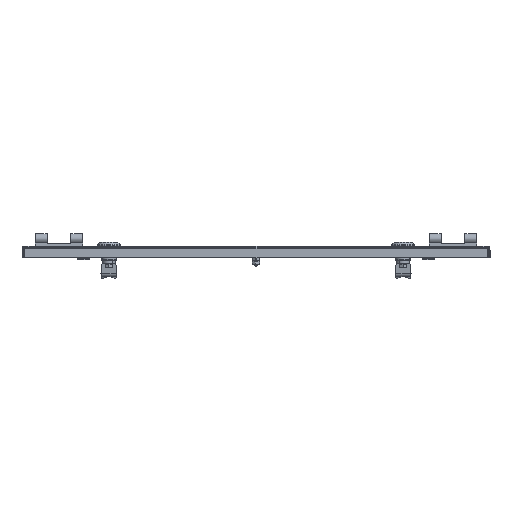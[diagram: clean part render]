
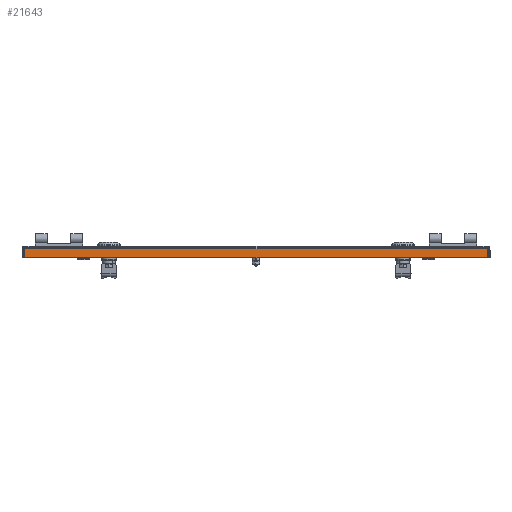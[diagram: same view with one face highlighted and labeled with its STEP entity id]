
A CAD part, left-side view. The second image highlights one B-rep face of the part: STEP entity #21643.
In plain terms, the highlighted planar face has unit normal (-1, 0, 0).
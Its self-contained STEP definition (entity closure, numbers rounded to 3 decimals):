
#524 = AXIS2_PLACEMENT_3D ( 'NONE', #10909, #10914, #10915 ) ;
#3768 = CARTESIAN_POINT ( 'NONE',  ( -392.5, -293.5, -15. ) ) ;
#3837 = CARTESIAN_POINT ( 'NONE',  ( -392.5, -293.5, -3.5 ) ) ;
#3839 = CARTESIAN_POINT ( 'NONE',  ( -392.5, 293.5, -15. ) ) ;
#4026 = CARTESIAN_POINT ( 'NONE',  ( -392.5, 293.5, -3.5 ) ) ;
#5209 = EDGE_LOOP ( 'NONE', ( #19904, #19905, #19906, #19907 ) ) ;
#7426 = FACE_OUTER_BOUND ( 'NONE', #5209, .T. ) ;
#10908 = PLANE ( 'NONE',  #524 ) ;
#10909 = CARTESIAN_POINT ( 'NONE',  ( -392.5, 297., -15. ) ) ;
#10914 = DIRECTION ( 'NONE',  ( -1., 0., 0. ) ) ;
#10915 = DIRECTION ( 'NONE',  ( 0., -1., 0. ) ) ;
#13078 = LINE ( 'NONE', #15482, #13084 ) ;
#13084 = VECTOR ( 'NONE', #15479, 1000. ) ;
#13096 = LINE ( 'NONE', #15506, #13099 ) ;
#13098 = LINE ( 'NONE', #15508, #13101 ) ;
#13099 = VECTOR ( 'NONE', #15507, 1000. ) ;
#13100 = LINE ( 'NONE', #15510, #13103 ) ;
#13101 = VECTOR ( 'NONE', #15509, 1000. ) ;
#13103 = VECTOR ( 'NONE', #15511, 1000. ) ;
#15479 = DIRECTION ( 'NONE',  ( 0., -1., 0. ) ) ;
#15482 = CARTESIAN_POINT ( 'NONE',  ( -392.5, 297., -15. ) ) ;
#15506 = CARTESIAN_POINT ( 'NONE',  ( -392.5, -293.5, -15. ) ) ;
#15507 = DIRECTION ( 'NONE',  ( 0., 0., 1. ) ) ;
#15508 = CARTESIAN_POINT ( 'NONE',  ( -392.5, 297., -3.5 ) ) ;
#15509 = DIRECTION ( 'NONE',  ( 0., 1., 0. ) ) ;
#15510 = CARTESIAN_POINT ( 'NONE',  ( -392.5, 293.5, -15. ) ) ;
#15511 = DIRECTION ( 'NONE',  ( 0., 0., -1. ) ) ;
#19904 = ORIENTED_EDGE ( 'NONE', *, *, #22523, .T. ) ;
#19905 = ORIENTED_EDGE ( 'NONE', *, *, #22532, .T. ) ;
#19906 = ORIENTED_EDGE ( 'NONE', *, *, #22533, .T. ) ;
#19907 = ORIENTED_EDGE ( 'NONE', *, *, #22534, .T. ) ;
#20214 = VERTEX_POINT ( 'NONE', #3768 ) ;
#20283 = VERTEX_POINT ( 'NONE', #3837 ) ;
#20285 = VERTEX_POINT ( 'NONE', #3839 ) ;
#20472 = VERTEX_POINT ( 'NONE', #4026 ) ;
#21643 = ADVANCED_FACE ( 'NONE', ( #7426 ), #10908, .T. ) ;
#22523 = EDGE_CURVE ( 'NONE', #20285, #20214, #13078, .T. ) ;
#22532 = EDGE_CURVE ( 'NONE', #20214, #20283, #13096, .T. ) ;
#22533 = EDGE_CURVE ( 'NONE', #20283, #20472, #13098, .T. ) ;
#22534 = EDGE_CURVE ( 'NONE', #20472, #20285, #13100, .T. ) ;
